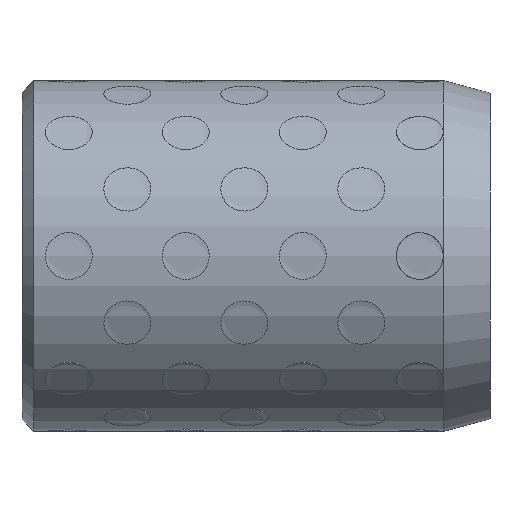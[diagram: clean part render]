
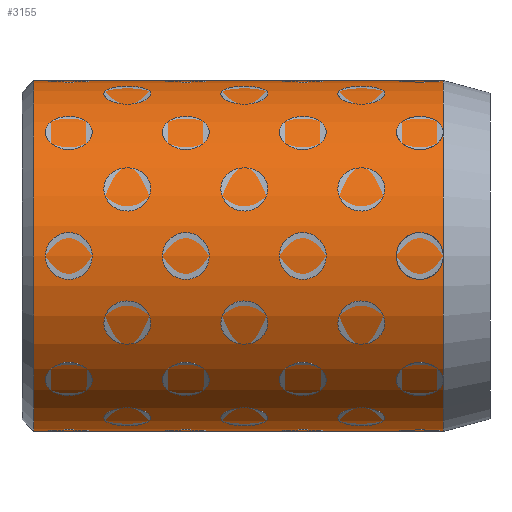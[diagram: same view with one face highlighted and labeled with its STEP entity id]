
A CAD part, left-side view. The second image highlights one B-rep face of the part: STEP entity #3155.
In plain terms, the highlighted cylindrical face has radius 15 mm (diameter 30 mm), a full revolution.
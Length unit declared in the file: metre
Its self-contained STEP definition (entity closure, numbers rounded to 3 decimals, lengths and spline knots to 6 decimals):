
#3155 = ADVANCED_FACE( '', ( #3369, #3370 ), #3371, .T. );
#3369 = FACE_OUTER_BOUND( '', #3841, .T. );
#3370 = FACE_OUTER_BOUND( '', #3842, .T. );
#3371 = CYLINDRICAL_SURFACE( '', #3843, 0.015 );
#3841 = EDGE_LOOP( '', ( #4325 ) );
#3842 = EDGE_LOOP( '', ( #4326 ) );
#3843 = AXIS2_PLACEMENT_3D( '', #4327, #4328, #4329 );
#4325 = ORIENTED_EDGE( '', *, *, #5174, .T. );
#4326 = ORIENTED_EDGE( '', *, *, #5173, .F. );
#4327 = CARTESIAN_POINT( '', ( 0., 0., 0. ) );
#4328 = DIRECTION( '', ( 0., 1., 0. ) );
#4329 = DIRECTION( '', ( 0., 0., -1. ) );
#5173 = EDGE_CURVE( '', #5315, #5315, #5316, .T. );
#5174 = EDGE_CURVE( '', #5317, #5317, #5318, .T. );
#5315 = VERTEX_POINT( '', #5587 );
#5316 = CIRCLE( '', #5588, 0.015 );
#5317 = VERTEX_POINT( '', #5589 );
#5318 = CIRCLE( '', #5590, 0.015 );
#5587 = CARTESIAN_POINT( '', ( 0., 0.004, -0.015 ) );
#5588 = AXIS2_PLACEMENT_3D( '', #12649, #12650, #12651 );
#5589 = CARTESIAN_POINT( '', ( 0., 0.039, -0.015 ) );
#5590 = AXIS2_PLACEMENT_3D( '', #12652, #12653, #12654 );
#12649 = CARTESIAN_POINT( '', ( 0., 0.004, 0. ) );
#12650 = DIRECTION( '', ( 0., -1., 0. ) );
#12651 = DIRECTION( '', ( 0., 0., -1. ) );
#12652 = CARTESIAN_POINT( '', ( 0., 0.039, 0. ) );
#12653 = DIRECTION( '', ( 0., -1., 0. ) );
#12654 = DIRECTION( '', ( 0., 0., -1. ) );
